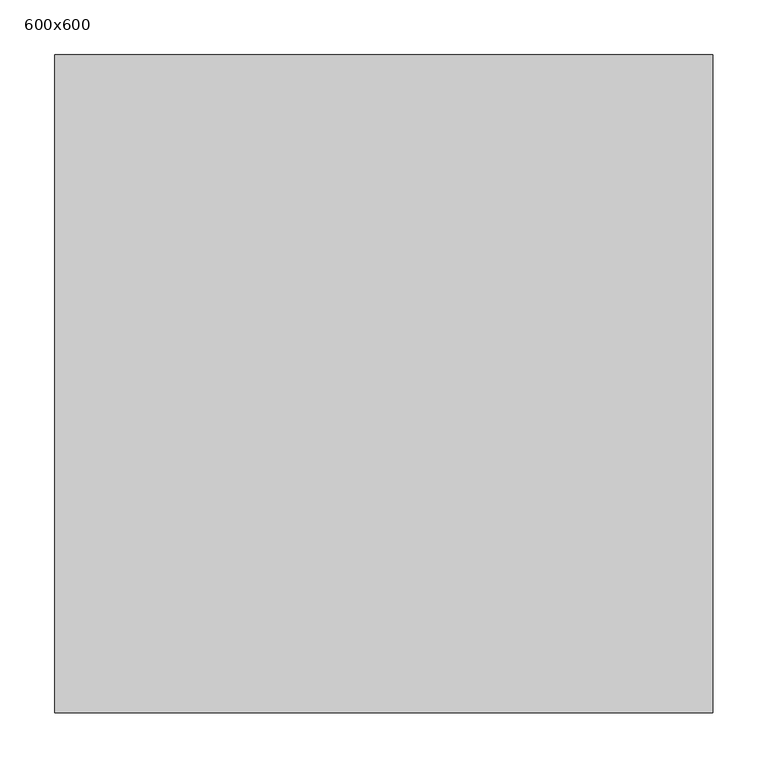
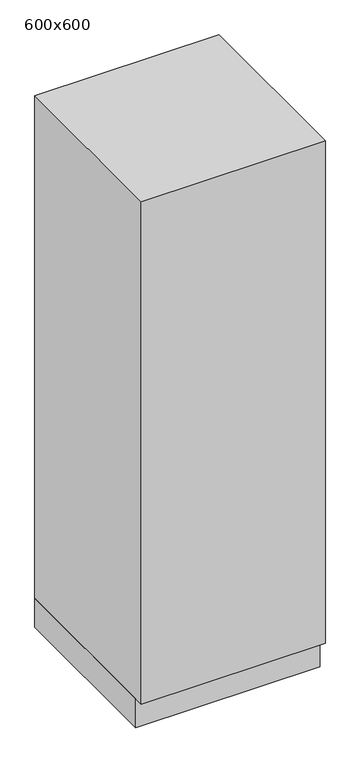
"""IFC4 building model written with IfcOpenShell, lengths in millimetres: proxy geometry, Eq_холодильник_LEG : 600x600."""

from ifc_helpers import new_model, si_unit, frame, origin, place, context, project, spatial, polyline, outline, extrude, source, transform, mapped, element, save


def proxy_600x600_402ae289(model_context):
    return source(origin(), model_context, "Body", "SweptSolid", [
        extrude(outline(polyline([(0.0, 0.0), (0.0, -570.0), (-600.0, -570.0), (-600.0, 0.0), (0.0, 0.0)])), frame((0.0, 0.0, -43.2), z_axis=(0.0, 0.0, 1.0), x_axis=(1.0, 0.0, 0.0)), (0.0, 0.0, 1.0), 100.0),
        extrude(outline(polyline([(0.0, -600.0), (-600.0, -600.0), (-600.0, 0.0), (0.0, 0.0), (0.0, -600.0)])), frame((0.0, 0.0, 56.8), z_axis=(0.0, 0.0, 1.0), x_axis=(1.0, 0.0, 0.0)), (0.0, 0.0, 1.0), 1730.0),
    ])


if __name__ == "__main__":
    model = new_model("IFC4")
    model_context = context("Model", 3, world=origin())
    ifc_project = project(units=[si_unit("LENGTHUNIT", "METRE", prefix="MILLI")], contexts=[model_context])
    site = spatial("IfcSite", under=ifc_project)
    building = spatial("IfcBuilding", under=site)
    placement = place(None, origin())
    proxy_600x600_shape = proxy_600x600_402ae289(model_context)
    element("IfcBuildingElementProxy", 1, Name="Eq_холодильник_LEG : 600x600", ObjectType="Eq_холодильник_LEG : 600x600", at=placement, inside=building, context=model_context, shape_type="MappedRepresentation", body=[
        mapped(proxy_600x600_shape, transform((0.0, 0.0, 0.0), x_axis=(1.0, 0.0, 0.0), y_axis=(0.0, 1.0, 0.0), z_axis=(0.0, 0.0, 1.0))),
    ])
    save(model, "model.ifc")
